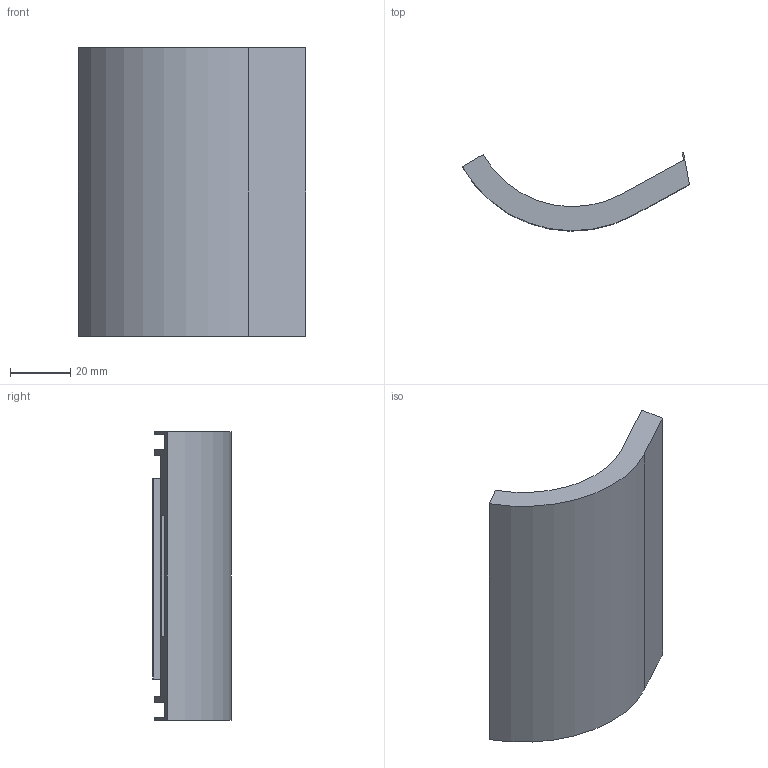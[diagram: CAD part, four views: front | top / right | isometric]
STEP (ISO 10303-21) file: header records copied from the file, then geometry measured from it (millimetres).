
FILE_DESCRIPTION(('STEP AP203'), '1');
FILE_NAME('ðåçîíàòîð 3', '', ('UNSPECIFIED'), ('UNSPECIFIED'), 'ASCON STEP Converter 1.3', 'ASCON Math Kernel', '');
FILE_SCHEMA(('CONFIG_CONTROL_DESIGN'));
Length unit declared in the file: millimetre
Bounding box: 75.5 x 25.95 x 96 mm (x, y, z)
Volume: 31042.2 mm3; surface area: 28471 mm2
Topology: 1 solids, 1 shells, 37 faces, 103 edges, 68 vertices
Faces by surface type: plane 27, cylinder 10
Entity records: 1525 total; most frequent: CARTESIAN_POINT 209, ORIENTED_EDGE 206, DIRECTION 199, EDGE_CURVE 103, LINE 83, VECTOR 83, VERTEX_POINT 68, AXIS2_PLACEMENT_3D 58
